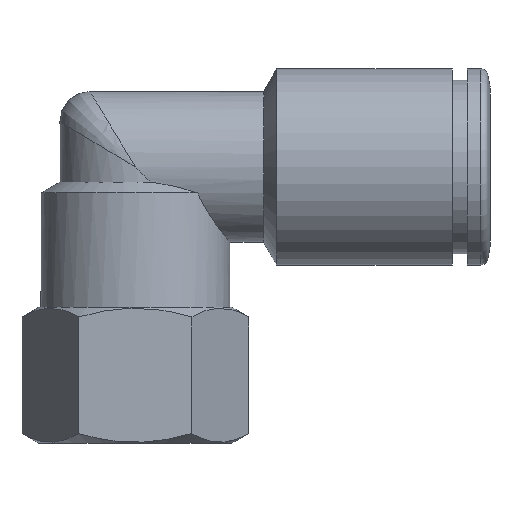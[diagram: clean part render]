
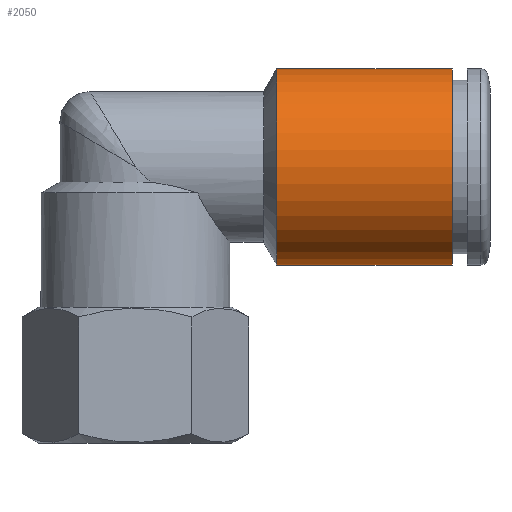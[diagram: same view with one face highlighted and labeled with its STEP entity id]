
A CAD part, front view. The second image highlights one B-rep face of the part: STEP entity #2050.
In plain terms, the highlighted cylindrical face has radius 6.5 mm (diameter 13 mm), a full revolution.
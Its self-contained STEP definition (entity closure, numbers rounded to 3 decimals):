
#2050=ADVANCED_FACE('', (#2060,#2070), #2080, .T.);
#5660=AXIS2_PLACEMENT_3D('Ax2Pl3d', #5670, #5680, #5690);
#6620=AXIS2_PLACEMENT_3D('Ax2Pl3d', #6630, #6640, #6650);
#6660=AXIS2_PLACEMENT_3D('Ax2Pl3d', #6670, #6680, #6690);
#5670=CARTESIAN_POINT('HicPkt', (31.688,0.,25.944));
#38470=CARTESIAN_POINT('', (31.688,0.,32.444));
#6630=CARTESIAN_POINT('HicPkt', (20.054,0.,25.944));
#38610=CARTESIAN_POINT('', (20.054,0.,32.444));
#6670=CARTESIAN_POINT('HicPkt', (20.054,0.,25.944));
#39050=CIRCLE('Circle', #5660, 6.5);
#39150=CIRCLE('Circle', #6620, 6.5);
#2080=CYLINDRICAL_SURFACE('Zyl', #6660, 6.5);
#5680=DIRECTION('Axis', (-1.,0.,0.))
;
#5690=DIRECTION('RefDirection', (0.,
0.,-1.));
#6640=DIRECTION('Axis', (-1.,0.,0.))
;
#6650=DIRECTION('RefDirection', (0.,
0.,-1.));
#6680=DIRECTION('Axis', (1.,0.,0.));
#6690=DIRECTION('RefDirection', (0.,0.,-1.));
#43130=EDGE_CURVE('', #43140, #43140, #39050, .T.);
#43510=EDGE_CURVE('', #43520, #43520, #39150, .T.);
#46150=EDGE_LOOP('Edge_loop', (#46160));
#46170=EDGE_LOOP('Edge_loop', (#46180));
#2070=FACE_BOUND('', #46170, .T.);
#2060=FACE_OUTER_BOUND('Face_outer_bound', #46150, .T.);
#46160=ORIENTED_EDGE('', *, *, #43130, .T.);
#46180=ORIENTED_EDGE('', *, *, #43510, .F.);
#43140=VERTEX_POINT('', #38470);
#43520=VERTEX_POINT('', #38610);
